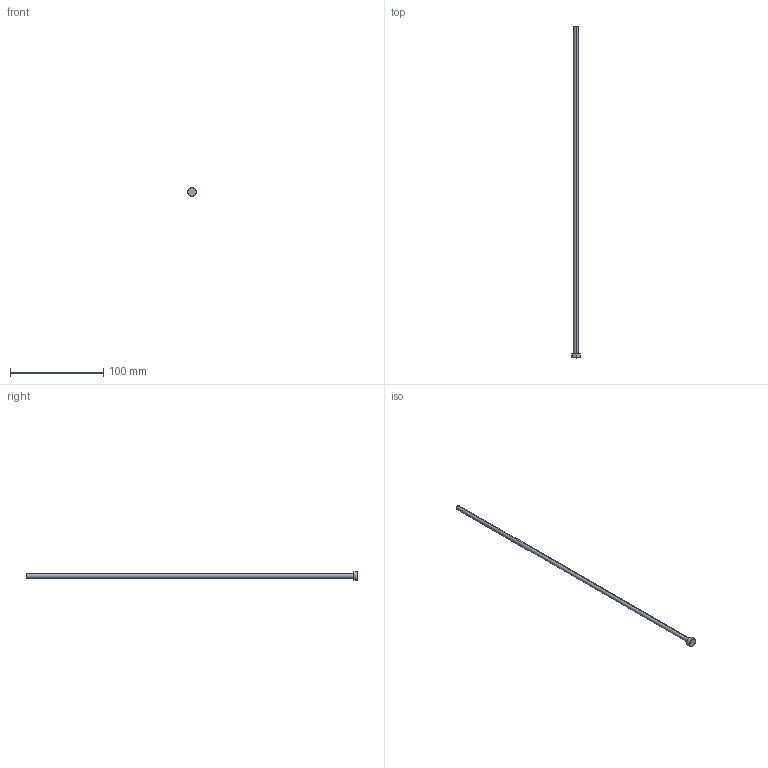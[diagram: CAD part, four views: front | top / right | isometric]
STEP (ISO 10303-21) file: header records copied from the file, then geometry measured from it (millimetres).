
FILE_DESCRIPTION (( 'STEP AP203' ), '1' );
FILE_NAME ('EP187L14.step', '2022-03-20T04:34:56', ( 'Microsoft Corporation' ), ( 'MS' ), 'SwSTEP 2.0', 'SolidWorks 2019', '' );
FILE_SCHEMA (( 'CONFIG_CONTROL_DESIGN' ));
Length unit declared in the file: inch
Products named in the file (1): EP187L14
Bounding box: 9.53 x 355.6 x 9.53 mm (x, y, z)
Volume: 6587.4 mm3; surface area: 5521.8 mm2
Topology: 1 solids, 1 shells, 13 faces, 24 edges, 14 vertices
Faces by surface type: cone 4, cylinder 4, plane 3, torus 2
Entity records: 405 total; most frequent: DIRECTION 68, CARTESIAN_POINT 52, ORIENTED_EDGE 48, AXIS2_PLACEMENT_3D 30, EDGE_CURVE 24, CIRCLE 16, VERTEX_POINT 14, EDGE_LOOP 14
